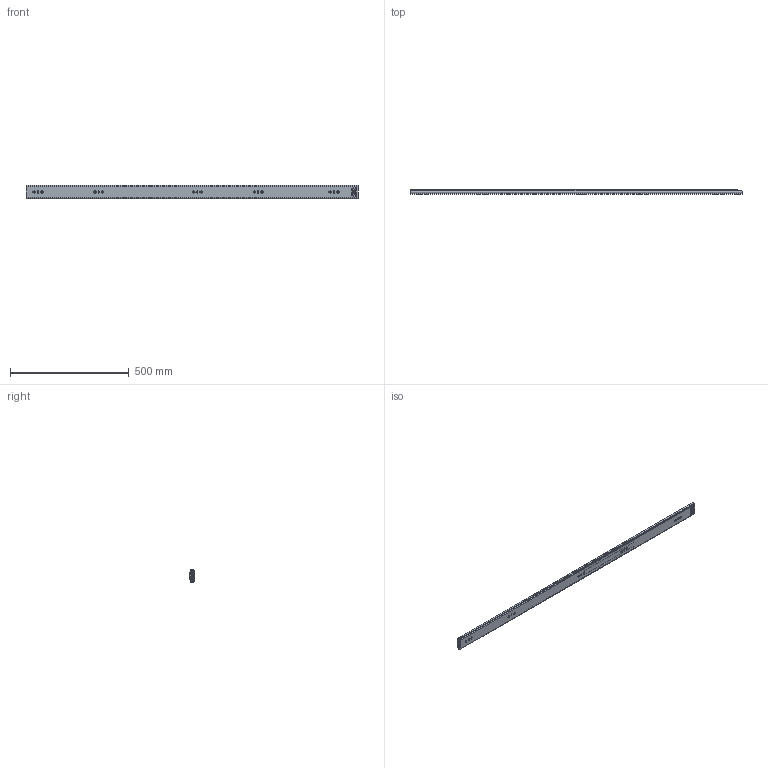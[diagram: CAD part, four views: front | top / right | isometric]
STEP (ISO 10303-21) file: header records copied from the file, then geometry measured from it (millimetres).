
FILE_DESCRIPTION((''),'2;1');
FILE_NAME('1057-02-56_ASM','2023-12-23T',('jishu015'),(''),'PRO/ENGINEER BY PARAMETRIC TECHNOLOGY CORPORATION, 2010280','PRO/ENGINEER BY PARAMETRIC TECHNOLOGY CORPORATION, 2010280','');
FILE_SCHEMA(('CONFIG_CONTROL_DESIGN'));
Products named in the file (14): KP-57-01WEIKE-122__; 1057WEIJIAO__________________; 1057DAZHUJIA-14GE11___; 1057-5-6GANZHU11; 1057DAZHUJIA-14GE11____ASM; KP-57-01ZHONGGUI-22_____; 57-ZHONGGUIDINWEIJIAN11_______; KP-57-01ZHONGGUI-22______ASM; 1057XIAOZHUJIA11; 1057XIAOZHUJIA-14GE22______ASM; KP-57-01NEIGUI-1822___; 45TIEBACHA__________________; KP-57-01NEIGUI-1822____ASM; 1057-02-56_ASM
Assembly tree (224 placements, depth 3):
  1057-02-56_ASM
    KP-57-01WEIKE-122__
    1057WEIJIAO__________________
    1057DAZHUJIA-14GE11____ASM
      1057DAZHUJIA-14GE11___
      1057-5-6GANZHU11  x104
    KP-57-01ZHONGGUI-22______ASM
      KP-57-01ZHONGGUI-22_____
      57-ZHONGGUIDINWEIJIAN11_______
    1057XIAOZHUJIA-14GE22______ASM
      1057XIAOZHUJIA11
      1057-5-6GANZHU11  x108
    KP-57-01NEIGUI-1822____ASM
      KP-57-01NEIGUI-1822___
      45TIEBACHA__________________
Bounding box: 1400 x 19 x 57.67 mm (x, y, z)
Volume: 617644.7 mm3; surface area: 725530.6 mm2
Topology: 220 solids, 222 shells, 5103 faces, 14302 edges, 8784 vertices
Faces by surface type: plane 2347, cylinder 2120, sphere 432, bspline 112, cone 86, torus 6
Entity records: 157464 total; most frequent: CARTESIAN_POINT 31704, DIRECTION 26810, ORIENTED_EDGE 26044, EDGE_CURVE 13024, AXIS2_PLACEMENT_3D 9171, VECTOR 8468, LINE 8468, VERTEX_POINT 8362
